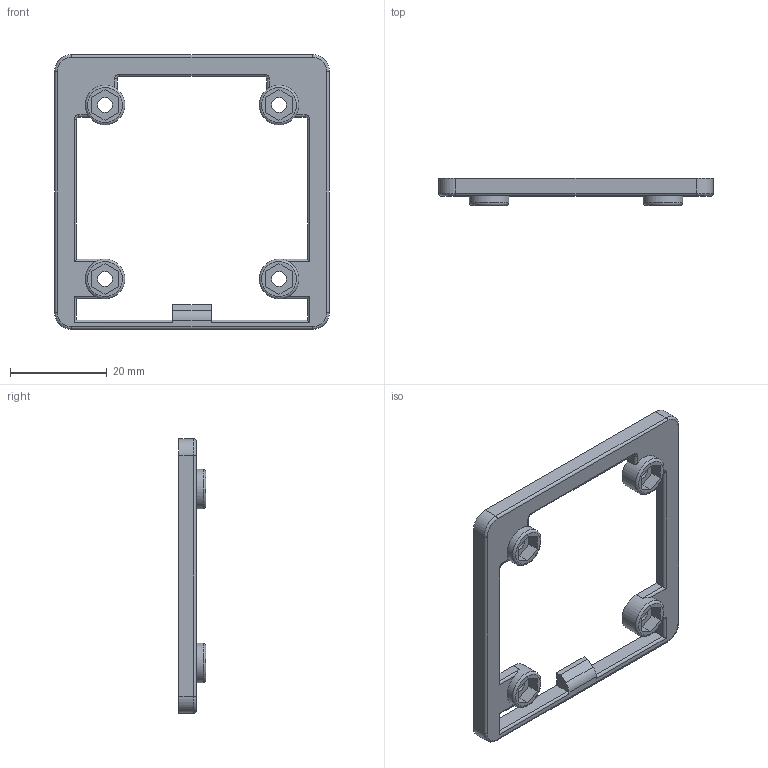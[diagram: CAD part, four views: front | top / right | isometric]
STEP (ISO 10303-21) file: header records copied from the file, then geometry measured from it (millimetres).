
FILE_DESCRIPTION(/* description */ (''),/* implementation_level */ '2;1');
FILE_NAME(/* name */ 'C:/Users/Ken.Diep/repos/hardware/Structure/Fusion/bottom_cap v12.step',/* time_stamp */ '2019-08-21T11:30:03+01:00',/* author */ (''),/* organization */ (''),/* preprocessor_version */ 'ST-DEVELOPER v18',/* originating_system */ 'Autodesk Translation Framework v8.6.0.1094',/* authorisation */ '');
FILE_SCHEMA (('AUTOMOTIVE_DESIGN { 1 0 10303 214 3 1 1 }'));
Length unit declared in the file: millimetre
Products named in the file (1): bottom_cap
Bounding box: 56.82 x 5.7 x 56.82 mm (x, y, z)
Volume: 3233.5 mm3; surface area: 4364.3 mm2
Topology: 3 solids, 3 shells, 206 faces, 551 edges, 362 vertices
Faces by surface type: plane 116, cylinder 42, bspline 36, torus 12
Full cylindrical faces by diameter (mm): 3.1 x4, 8.2 x4
Entity records: 6826 total; most frequent: CARTESIAN_POINT 1798, ORIENTED_EDGE 1102, DIRECTION 913, EDGE_CURVE 551, LINE 367, VECTOR 367, VERTEX_POINT 362, AXIS2_PLACEMENT_3D 273
